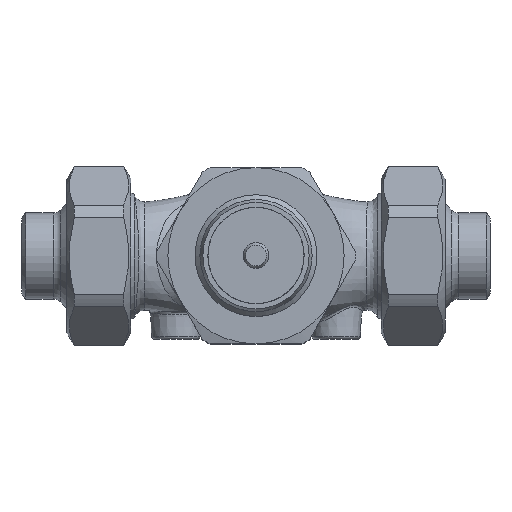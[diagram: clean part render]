
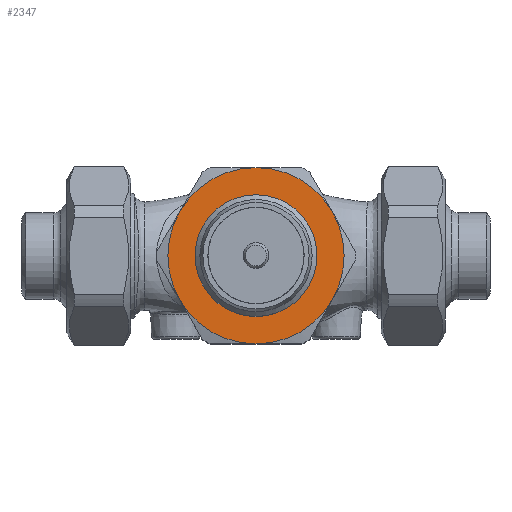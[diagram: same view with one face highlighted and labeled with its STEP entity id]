
A CAD part, top view. The second image highlights one B-rep face of the part: STEP entity #2347.
In plain terms, the highlighted planar face has unit normal (0, 0, 1).
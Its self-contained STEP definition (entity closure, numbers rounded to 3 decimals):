
#2347=ADVANCED_FACE('',(#3094,#3095),#2878,.T.);
#2878=PLANE('',#9550);
#3094=FACE_BOUND('',#3396,.T.);
#3095=FACE_BOUND('',#3397,.T.);
#3396=EDGE_LOOP('',(#4357,#4358,#4359,#4360,#4361,#4362));
#3397=EDGE_LOOP('',(#4363));
#4357=ORIENTED_EDGE('',*,*,#7720,.T.);
#4358=ORIENTED_EDGE('',*,*,#7721,.T.);
#4359=ORIENTED_EDGE('',*,*,#7722,.T.);
#4360=ORIENTED_EDGE('',*,*,#7723,.T.);
#4361=ORIENTED_EDGE('',*,*,#7724,.T.);
#4362=ORIENTED_EDGE('',*,*,#7725,.T.);
#4363=ORIENTED_EDGE('',*,*,#7726,.T.);
#6803=VERTEX_POINT('',#19269);
#6804=VERTEX_POINT('',#19270);
#6805=VERTEX_POINT('',#19272);
#6806=VERTEX_POINT('',#19274);
#6807=VERTEX_POINT('',#19276);
#6808=VERTEX_POINT('',#19278);
#6809=VERTEX_POINT('',#19281);
#7720=EDGE_CURVE('',#6803,#6804,#8944,.T.);
#7721=EDGE_CURVE('',#6804,#6805,#8945,.T.);
#7722=EDGE_CURVE('',#6805,#6806,#8946,.T.);
#7723=EDGE_CURVE('',#6806,#6807,#8947,.T.);
#7724=EDGE_CURVE('',#6807,#6808,#8948,.T.);
#7725=EDGE_CURVE('',#6808,#6803,#8949,.T.);
#7726=EDGE_CURVE('',#6809,#6809,#8950,.T.);
#8944=CIRCLE('',#9543,27.5);
#8945=CIRCLE('',#9544,27.5);
#8946=CIRCLE('',#9545,27.5);
#8947=CIRCLE('',#9546,27.5);
#8948=CIRCLE('',#9547,27.5);
#8949=CIRCLE('',#9548,27.5);
#8950=CIRCLE('',#9549,19.);
#9543=AXIS2_PLACEMENT_3D('',#19268,#10765,#10766);
#9544=AXIS2_PLACEMENT_3D('',#19271,#10767,#10768);
#9545=AXIS2_PLACEMENT_3D('',#19273,#10769,#10770);
#9546=AXIS2_PLACEMENT_3D('',#19275,#10771,#10772);
#9547=AXIS2_PLACEMENT_3D('',#19277,#10773,#10774);
#9548=AXIS2_PLACEMENT_3D('',#19279,#10775,#10776);
#9549=AXIS2_PLACEMENT_3D('',#19280,#10777,#10778);
#9550=AXIS2_PLACEMENT_3D('',#19282,#10779,#10780);
#10765=DIRECTION('',(0.,0.,1.));
#10766=DIRECTION('',(-1.,0.,0.));
#10767=DIRECTION('',(0.,0.,1.));
#10768=DIRECTION('',(-1.,0.,0.));
#10769=DIRECTION('',(0.,0.,1.));
#10770=DIRECTION('',(-1.,0.,0.));
#10771=DIRECTION('',(0.,0.,1.));
#10772=DIRECTION('',(-1.,0.,0.));
#10773=DIRECTION('',(0.,0.,1.));
#10774=DIRECTION('',(-1.,0.,0.));
#10775=DIRECTION('',(0.,0.,1.));
#10776=DIRECTION('',(-1.,0.,0.));
#10777=DIRECTION('',(0.,0.,-1.));
#10778=DIRECTION('',(1.,0.,0.));
#10779=DIRECTION('',(0.,0.,1.));
#10780=DIRECTION('',(-1.,0.,0.));
#19268=CARTESIAN_POINT('',(0.,0.,48.));
#19269=CARTESIAN_POINT('',(-23.816,-13.75,48.));
#19270=CARTESIAN_POINT('',(0.,-27.5,48.));
#19271=CARTESIAN_POINT('',(0.,0.,48.));
#19272=CARTESIAN_POINT('',(23.816,-13.75,48.));
#19273=CARTESIAN_POINT('',(0.,0.,48.));
#19274=CARTESIAN_POINT('',(23.816,13.75,48.));
#19275=CARTESIAN_POINT('',(0.,0.,48.));
#19276=CARTESIAN_POINT('',(0.,27.5,48.));
#19277=CARTESIAN_POINT('',(0.,0.,48.));
#19278=CARTESIAN_POINT('',(-23.816,13.75,48.));
#19279=CARTESIAN_POINT('',(0.,0.,48.));
#19280=CARTESIAN_POINT('',(0.,0.,48.));
#19281=CARTESIAN_POINT('',(19.,0.,48.));
#19282=CARTESIAN_POINT('',(-19.5,0.,48.));
